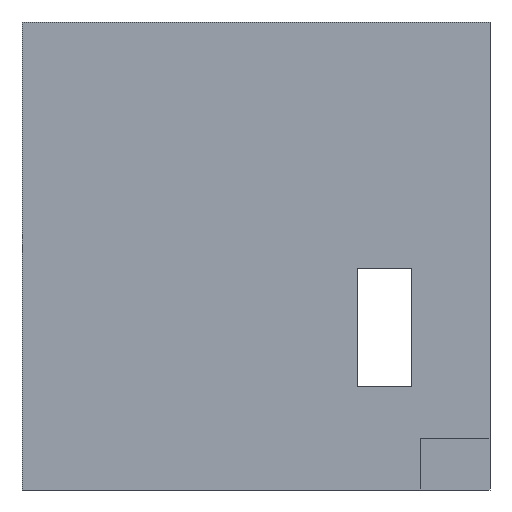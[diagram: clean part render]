
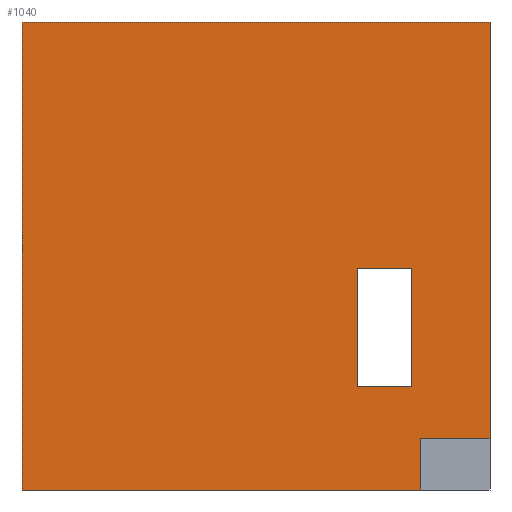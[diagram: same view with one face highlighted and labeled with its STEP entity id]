
A CAD part, left-side view. The second image highlights one B-rep face of the part: STEP entity #1040.
In plain terms, the highlighted planar face has unit normal (-1, 0, 0).
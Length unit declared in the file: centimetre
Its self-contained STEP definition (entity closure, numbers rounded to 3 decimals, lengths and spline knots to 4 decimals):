
#19 = EDGE_CURVE ( 'NONE', #129, #631, #305, .T. ) ;
#24 = CARTESIAN_POINT ( 'NONE',  ( 0., 1000., 0. ) ) ;
#29 = ORIENTED_EDGE ( 'NONE', *, *, #502, .T. ) ;
#30 = VECTOR ( 'NONE', #775, 100. ) ;
#31 = EDGE_CURVE ( 'NONE', #829, #928, #792, .T. ) ;
#55 = EDGE_CURVE ( 'NONE', #1107, #454, #220, .T. ) ;
#56 = CARTESIAN_POINT ( 'NONE',  ( 0., 148.2996, 109.3158 ) ) ;
#70 = VECTOR ( 'NONE', #960, 100. ) ;
#73 = CARTESIAN_POINT ( 'NONE',  ( 0., 167.1383, 220.5119 ) ) ;
#76 = ORIENTED_EDGE ( 'NONE', *, *, #137, .F. ) ;
#84 = DIRECTION ( 'NONE',  ( 0., 0., 1. ) ) ;
#97 = ORIENTED_EDGE ( 'NONE', *, *, #691, .F. ) ;
#111 = CARTESIAN_POINT ( 'NONE',  ( 0., 0., 1000. ) ) ;
#129 = VERTEX_POINT ( 'NONE', #1037 ) ;
#131 = DIRECTION ( 'NONE',  ( 0., 0., -1. ) ) ;
#137 = EDGE_CURVE ( 'NONE', #935, #1212, #366, .T. ) ;
#185 = ORIENTED_EDGE ( 'NONE', *, *, #1163, .T. ) ;
#220 = LINE ( 'NONE', #1168, #30 ) ;
#227 = VECTOR ( 'NONE', #1144, 100. ) ;
#252 = CARTESIAN_POINT ( 'NONE',  ( 0., 1000., 1000. ) ) ;
#254 = CARTESIAN_POINT ( 'NONE',  ( 0., 284.0424, 220.5119 ) ) ;
#258 = ORIENTED_EDGE ( 'NONE', *, *, #19, .T. ) ;
#264 = VECTOR ( 'NONE', #1117, 100. ) ;
#287 = EDGE_CURVE ( 'NONE', #1128, #1107, #737, .T. ) ;
#305 = LINE ( 'NONE', #24, #686 ) ;
#317 = CARTESIAN_POINT ( 'NONE',  ( 0., 1000., 1000. ) ) ;
#321 = VECTOR ( 'NONE', #84, 100. ) ;
#360 = ORIENTED_EDGE ( 'NONE', *, *, #742, .T. ) ;
#366 = LINE ( 'NONE', #938, #70 ) ;
#369 = VERTEX_POINT ( 'NONE', #632 ) ;
#370 = LINE ( 'NONE', #666, #321 ) ;
#421 = VECTOR ( 'NONE', #131, 100. ) ;
#434 = FACE_OUTER_BOUND ( 'NONE', #476, .T. ) ;
#450 = DIRECTION ( 'NONE',  ( 0., 0., -1. ) ) ;
#454 = VERTEX_POINT ( 'NONE', #254 ) ;
#476 = EDGE_LOOP ( 'NONE', ( #258, #97, #658, #591, #76, #360 ) ) ;
#479 = LINE ( 'NONE', #582, #227 ) ;
#490 = LINE ( 'NONE', #317, #421 ) ;
#502 = EDGE_CURVE ( 'NONE', #454, #369, #370, .T. ) ;
#535 = ORIENTED_EDGE ( 'NONE', *, *, #287, .T. ) ;
#537 = DIRECTION ( 'NONE',  ( 1., 0., 0. ) ) ;
#582 = CARTESIAN_POINT ( 'NONE',  ( 0., 167.1383, 472.7179 ) ) ;
#591 = ORIENTED_EDGE ( 'NONE', *, *, #1072, .F. ) ;
#631 = VERTEX_POINT ( 'NONE', #710 ) ;
#632 = CARTESIAN_POINT ( 'NONE',  ( 0., 284.0424, 472.7179 ) ) ;
#645 = CARTESIAN_POINT ( 'NONE',  ( 0., 167.1383, 220.5119 ) ) ;
#647 = CARTESIAN_POINT ( 'NONE',  ( 0., 148.2996, 109.3158 ) ) ;
#658 = ORIENTED_EDGE ( 'NONE', *, *, #31, .F. ) ;
#660 = CARTESIAN_POINT ( 'NONE',  ( 0., 167.1383, 472.7179 ) ) ;
#666 = CARTESIAN_POINT ( 'NONE',  ( 0., 284.0424, 220.5119 ) ) ;
#680 = CARTESIAN_POINT ( 'NONE',  ( 0., 0., 109.3158 ) ) ;
#686 = VECTOR ( 'NONE', #786, 100. ) ;
#691 = EDGE_CURVE ( 'NONE', #928, #631, #1032, .T. ) ;
#710 = CARTESIAN_POINT ( 'NONE',  ( 0., 148.2996, 0. ) ) ;
#737 = LINE ( 'NONE', #645, #1115 ) ;
#742 = EDGE_CURVE ( 'NONE', #935, #129, #490, .T. ) ;
#775 = DIRECTION ( 'NONE',  ( 0., 1., 0. ) ) ;
#786 = DIRECTION ( 'NONE',  ( 0., -1., 0. ) ) ;
#792 = LINE ( 'NONE', #1065, #1078 ) ;
#805 = VECTOR ( 'NONE', #1055, 100. ) ;
#821 = PLANE ( 'NONE',  #1215 ) ;
#829 = VERTEX_POINT ( 'NONE', #680 ) ;
#895 = CARTESIAN_POINT ( 'NONE',  ( 0., 1000., 1000. ) ) ;
#915 = FACE_BOUND ( 'NONE', #1026, .T. ) ;
#924 = CARTESIAN_POINT ( 'NONE',  ( 0., 0., 1000. ) ) ;
#928 = VERTEX_POINT ( 'NONE', #56 ) ;
#935 = VERTEX_POINT ( 'NONE', #895 ) ;
#938 = CARTESIAN_POINT ( 'NONE',  ( 0., 1000., 1000. ) ) ;
#960 = DIRECTION ( 'NONE',  ( 0., -1., 0. ) ) ;
#975 = DIRECTION ( 'NONE',  ( 0., 1., 0. ) ) ;
#1024 = DIRECTION ( 'NONE',  ( 0., 0., -1. ) ) ;
#1026 = EDGE_LOOP ( 'NONE', ( #535, #1027, #29, #185 ) ) ;
#1027 = ORIENTED_EDGE ( 'NONE', *, *, #55, .T. ) ;
#1032 = LINE ( 'NONE', #647, #805 ) ;
#1037 = CARTESIAN_POINT ( 'NONE',  ( 0., 1000., 0. ) ) ;
#1040 = ADVANCED_FACE ( 'NONE', ( #915, #434 ), #821, .F. ) ;
#1055 = DIRECTION ( 'NONE',  ( 0., 0., -1. ) ) ;
#1065 = CARTESIAN_POINT ( 'NONE',  ( 0., 0., 109.3158 ) ) ;
#1072 = EDGE_CURVE ( 'NONE', #1212, #829, #1196, .T. ) ;
#1078 = VECTOR ( 'NONE', #975, 100. ) ;
#1107 = VERTEX_POINT ( 'NONE', #73 ) ;
#1115 = VECTOR ( 'NONE', #1024, 100. ) ;
#1117 = DIRECTION ( 'NONE',  ( 0., 0., -1. ) ) ;
#1128 = VERTEX_POINT ( 'NONE', #660 ) ;
#1144 = DIRECTION ( 'NONE',  ( 0., -1., 0. ) ) ;
#1163 = EDGE_CURVE ( 'NONE', #369, #1128, #479, .T. ) ;
#1168 = CARTESIAN_POINT ( 'NONE',  ( 0., 167.1383, 220.5119 ) ) ;
#1196 = LINE ( 'NONE', #924, #264 ) ;
#1212 = VERTEX_POINT ( 'NONE', #111 ) ;
#1215 = AXIS2_PLACEMENT_3D ( 'NONE', #252, #537, #450 ) ;
